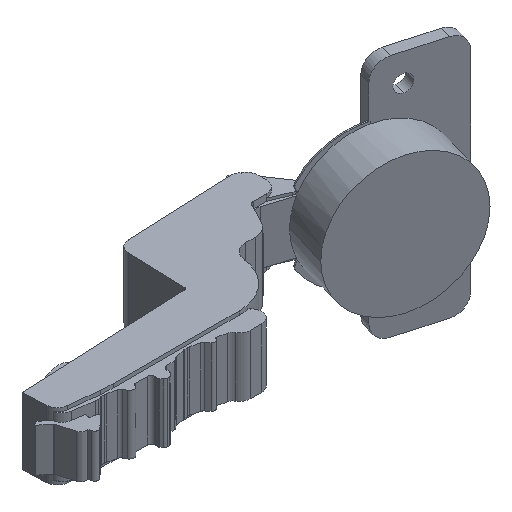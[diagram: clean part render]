
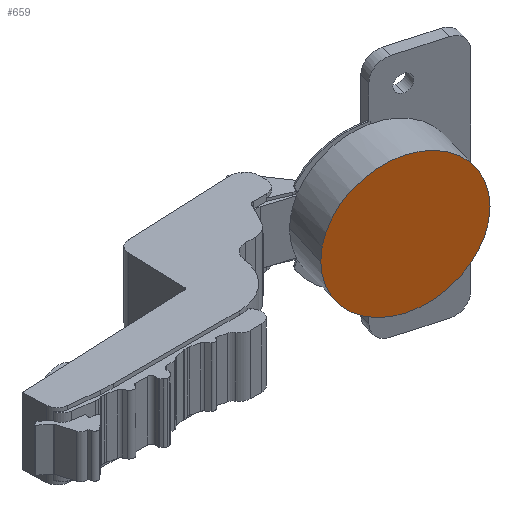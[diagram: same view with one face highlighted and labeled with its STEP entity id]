
A CAD part, isometric view. The second image highlights one B-rep face of the part: STEP entity #659.
In plain terms, the highlighted planar face has unit normal (-0.273, -0.962, 0).
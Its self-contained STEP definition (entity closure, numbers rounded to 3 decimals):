
#659 = ADVANCED_FACE ( 'NONE', ( #4242 ), #2229, .T. ) ;
#943 = AXIS2_PLACEMENT_3D ( 'NONE', #3847, #1794, #2574 ) ;
#1411 = EDGE_LOOP ( 'NONE', ( #3487, #1570 ) ) ;
#1570 = ORIENTED_EDGE ( 'NONE', *, *, #2585, .T. ) ;
#1794 = DIRECTION ( 'NONE',  ( -0.273, -0.962, 0. ) ) ;
#1814 = CARTESIAN_POINT ( 'NONE',  ( 2.948, 4.303, 0. ) ) ;
#1879 = CARTESIAN_POINT ( 'NONE',  ( 19.685, -0.452, 0. ) ) ;
#1970 = CARTESIAN_POINT ( 'NONE',  ( 2.948, 4.303, 0. ) ) ;
#2178 = DIRECTION ( 'NONE',  ( 0.962, -0.273, 0. ) ) ;
#2229 = PLANE ( 'NONE',  #943 ) ;
#2308 = DIRECTION ( 'NONE',  ( 0.962, -0.273, 0. ) ) ;
#2574 = DIRECTION ( 'NONE',  ( 0.962, -0.273, 0. ) ) ;
#2585 = EDGE_CURVE ( 'NONE', #3660, #5037, #2695, .T. ) ;
#2694 = AXIS2_PLACEMENT_3D ( 'NONE', #1970, #3180, #2308 ) ;
#2695 = CIRCLE ( 'NONE', #3539, 17.4 ) ;
#3180 = DIRECTION ( 'NONE',  ( -0.273, -0.962, 0. ) ) ;
#3487 = ORIENTED_EDGE ( 'NONE', *, *, #3988, .T. ) ;
#3539 = AXIS2_PLACEMENT_3D ( 'NONE', #1814, #4958, #2178 ) ;
#3625 = CIRCLE ( 'NONE', #2694, 17.4 ) ;
#3660 = VERTEX_POINT ( 'NONE', #4064 ) ;
#3847 = CARTESIAN_POINT ( 'NONE',  ( 2.948, 4.303, 0. ) ) ;
#3988 = EDGE_CURVE ( 'NONE', #5037, #3660, #3625, .T. ) ;
#4064 = CARTESIAN_POINT ( 'NONE',  ( -13.79, 9.058, 0. ) ) ;
#4242 = FACE_OUTER_BOUND ( 'NONE', #1411, .T. ) ;
#4958 = DIRECTION ( 'NONE',  ( -0.273, -0.962, 0. ) ) ;
#5037 = VERTEX_POINT ( 'NONE', #1879 ) ;
